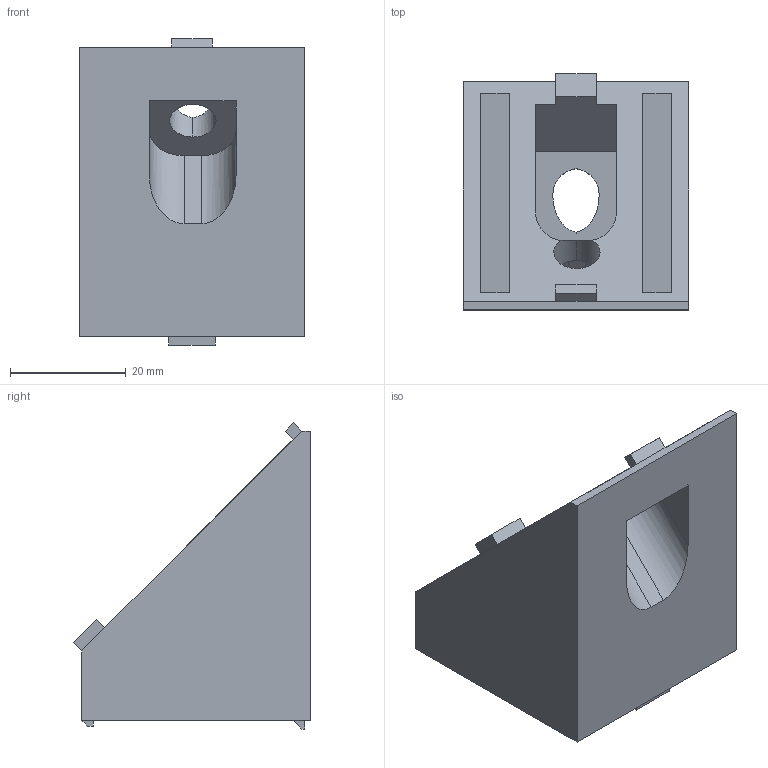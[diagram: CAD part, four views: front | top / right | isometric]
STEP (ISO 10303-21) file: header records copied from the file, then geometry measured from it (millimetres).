
FILE_DESCRIPTION (( 'STEP AP203' ), '1' );
FILE_NAME ('2025.STEP', '2016-03-27T14:36:19', ( '' ), ( '' ), 'SwSTEP 2.0', 'SolidWorks 2014', '' );
FILE_SCHEMA (( 'CONFIG_CONTROL_DESIGN' ));
Length unit declared in the file: millimetre
Products named in the file (1): 2025
Bounding box: 39 x 40.91 x 52.91 mm (x, y, z)
Volume: 30961 mm3; surface area: 14296.2 mm2
Topology: 1 solids, 1 shells, 66 faces, 171 edges, 112 vertices
Faces by surface type: plane 56, cylinder 10
Entity records: 2068 total; most frequent: CARTESIAN_POINT 388, ORIENTED_EDGE 342, DIRECTION 305, EDGE_CURVE 171, VECTOR 147, LINE 147, VERTEX_POINT 112, AXIS2_PLACEMENT_3D 79
